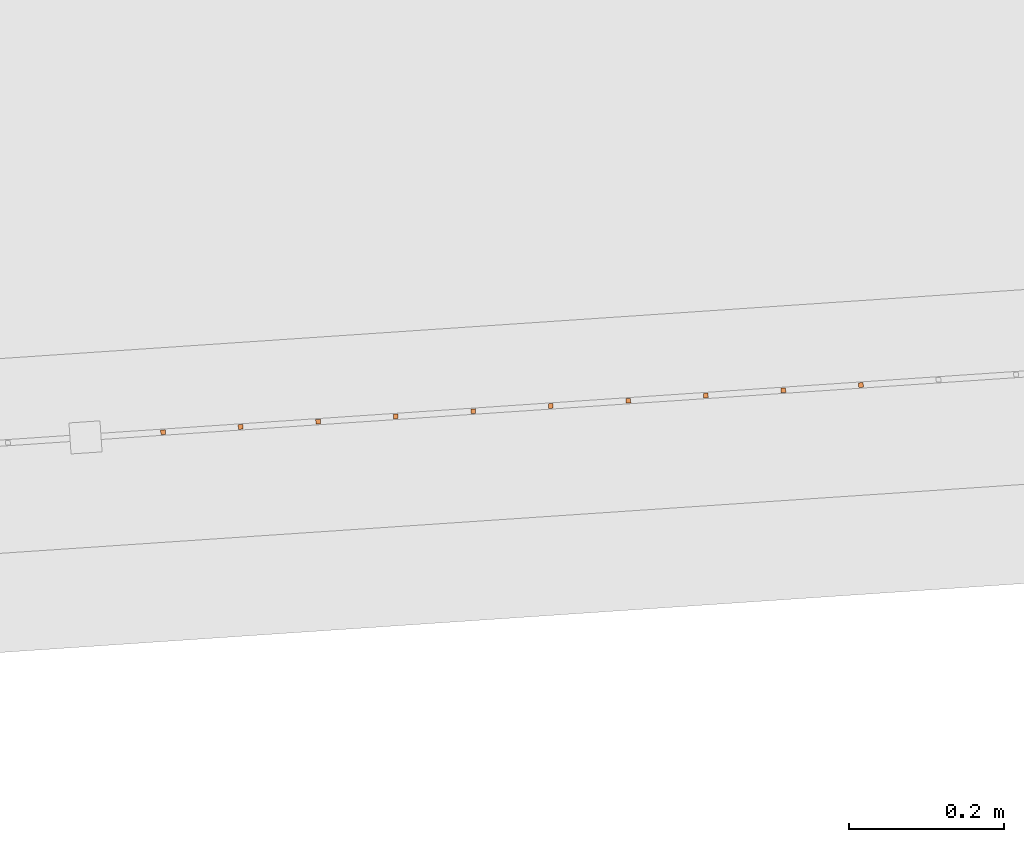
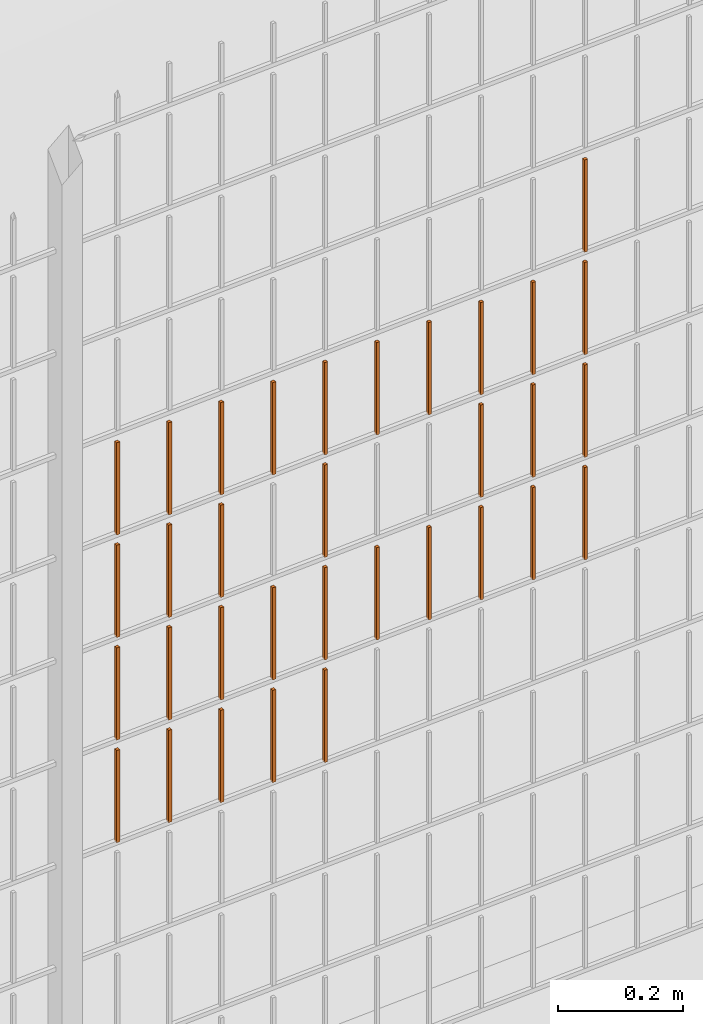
# One storey, part 278 of 1809: 33 proxies, 1 element without a shape of its own.
"""IFC2X3 building model written with IfcOpenShell, lengths in millimetres."""

from ifc_helpers import new_model, entity, si_unit, converted_unit, derived_unit, money_unit, direction, frame, origin_with_axes, place, context, subcontext, project, spatial, faceted_brep, source, transform, mapped, material, type_object, element, aggregate, save


model = new_model("IFC2X3")

# Units and contexts
model_context = context("Model", 3, precision=0.01, world=origin_with_axes(), true_north=direction((0.0, 1.0)))
body_context = subcontext(model_context, "Body", "Model", "MODEL_VIEW")
ifc_project = project(units=[si_unit("LENGTHUNIT", "METRE", prefix="MILLI"), si_unit("AREAUNIT", "SQUARE_METRE"), si_unit("VOLUMEUNIT", "CUBIC_METRE"), converted_unit("PLANEANGLEUNIT", "DEGREE", entity("IfcPlaneAngleMeasure", 0.0174532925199), si_unit("PLANEANGLEUNIT", "RADIAN"), dimensions=[0, 0, 0, 0, 0, 0, 0]), si_unit("SOLIDANGLEUNIT", "STERADIAN"), money_unit("EUR"), converted_unit("TIMEUNIT", "Year", entity("IfcTimeMeasure", 31556926.0), si_unit("TIMEUNIT", "SECOND"), dimensions=[0, 0, 1, 0, 0, 0, 0]), si_unit("MASSUNIT", "GRAM", prefix="KILO"), si_unit("THERMODYNAMICTEMPERATUREUNIT", "DEGREE_CELSIUS"), si_unit("LUMINOUSINTENSITYUNIT", "LUMEN"), si_unit("ENERGYUNIT", "JOULE", prefix="MEGA"), derived_unit("THERMALCONDUCTANCEUNIT", [(si_unit("POWERUNIT", "WATT"), 1), (si_unit("LENGTHUNIT", "METRE"), -1), (si_unit("THERMODYNAMICTEMPERATUREUNIT", "KELVIN"), -1)]), derived_unit("SPECIFICHEATCAPACITYUNIT", [(si_unit("ENERGYUNIT", "JOULE"), 1), (si_unit("MASSUNIT", "GRAM", prefix="KILO"), -1), (si_unit("THERMODYNAMICTEMPERATUREUNIT", "KELVIN"), -1)]), derived_unit("MASSDENSITYUNIT", [(si_unit("MASSUNIT", "GRAM", prefix="KILO"), 1), (si_unit("VOLUMEUNIT", "CUBIC_METRE"), -1)])], contexts=[model_context])

# Site, building, storey
site_placement = place(None, origin_with_axes())
site = spatial("IfcSite", under=ifc_project, at=site_placement, Name="Politse- ja Piirivalveameti ning Päästeameti ühishoone", CompositionType="ELEMENT")
building_placement = place(site_placement, origin_with_axes())
building = spatial("IfcBuilding", under=site, at=building_placement, Name="Politse- ja Piirivalveameti ning Päästeameti ühishoone", CompositionType="ELEMENT")
storey_placement = place(building_placement, origin_with_axes())
storey = spatial("IfcBuildingStorey", under=building, at=storey_placement, Name="Esimene korrus", CompositionType="ELEMENT", Elevation=0.0)

# Proxies
building_element_proxy_type_1 = type_object("IfcBuildingElementProxyType", Name="Railing Type", PredefinedType="NOTDEFINED")
proxy_1_placement = place(storey_placement, frame((89252.001212, -29183.4766571, 203.661247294), z_axis=(0.0, 0.0, 1.0), x_axis=(1.0, 0.0, 0.0)))
proxy_1 = element("IfcBuildingElementProxy", 1, at=proxy_1_placement, inside=storey, type_object=building_element_proxy_type_1, Name="PIIRDEAED")
ifc_material = material(Name="ET-03_Raud")
building_element_proxy_type_2 = type_object("IfcBuildingElementProxyType", Name="IfcBuildingElementProxy", PredefinedType="NOTDEFINED")
shared_shape_1 = source(origin_with_axes(), body_context, "Body", "Brep", [
    faceted_brep([(3.0, 3.0, -0.000752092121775), (-3.0, 3.0, -0.000752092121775), (-3.0, 3.0, 179.99926046), (3.0, 3.0, 179.99926046), (3.0, -3.0, 0.000752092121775), (-3.0, -3.0, 0.000752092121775), (-3.0, -3.0, 180.000764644), (3.0, -3.0, 180.000764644)], [[[0, 1, 2, 3]], [[0, 4, 5, 1]], [[1, 5, 6, 2]], [[3, 2, 6, 7]], [[4, 0, 3, 7]], [[5, 4, 7, 6]]]),
])
proxy_2_placement = place(proxy_1_placement, frame((-51908.4068673, -20803.9917502, 614.191431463), z_axis=(0.0, 0.0, 1.0), x_axis=(1.0, 0.0, 0.0)))
proxy_2 = element("IfcBuildingElementProxy", 2, at=proxy_2_placement, type_object=building_element_proxy_type_2, material=ifc_material, Name="BALUSTER - 001", context=body_context, shape_type="MappedRepresentation", body=[
    mapped(shared_shape_1, transform((0.0, 0.0, 0.0), x_axis=(-0.0673926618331, 0.997726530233, 0.0), y_axis=(-0.997726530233, -0.0673926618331, 0.0), z_axis=(0.0, 0.0, 1.0))),
])
shared_shape_2 = source(origin_with_axes(), body_context, "Body", "Brep", [
    faceted_brep([(3.0, 3.0, -0.000752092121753), (-3.0, 3.0, -0.000752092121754), (-3.0, 3.0, 179.99926046), (3.0, 3.0, 179.99926046), (3.0, -3.0, 0.000752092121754), (-3.0, -3.0, 0.000752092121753), (-3.0, -3.0, 180.000764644), (3.0, -3.0, 180.000764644)], [[[0, 1, 2, 3]], [[0, 4, 5, 1]], [[1, 5, 6, 2]], [[3, 2, 6, 7]], [[4, 0, 3, 7]], [[5, 4, 7, 6]]]),
])
proxy_3_placement = place(proxy_1_placement, frame((-52107.9521734, -20817.4702826, 1214.14129199), z_axis=(0.0, 0.0, 1.0), x_axis=(1.0, 0.0, 0.0)))
proxy_3 = element("IfcBuildingElementProxy", 3, at=proxy_3_placement, type_object=building_element_proxy_type_2, material=ifc_material, Name="BALUSTER - 001", context=body_context, shape_type="MappedRepresentation", body=[
    mapped(shared_shape_2, transform((0.0, 0.0, 0.0), x_axis=(-0.0673926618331, 0.997726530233, 0.0), y_axis=(-0.997726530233, -0.0673926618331, 0.0), z_axis=(0.0, 0.0, 1.0))),
])
shared_shape_3 = source(origin_with_axes(), body_context, "Body", "Brep", [
    faceted_brep([(3.0, 3.0, -0.000752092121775), (-3.0, 3.0, -0.000752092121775), (-3.0, 3.0, 179.99926046), (3.0, 3.0, 179.99926046), (3.0, -3.0, 0.000752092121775), (-3.0, -3.0, 0.000752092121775), (-3.0, -3.0, 180.000764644), (3.0, -3.0, 180.000764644)], [[[0, 1, 2, 3]], [[0, 4, 5, 1]], [[1, 5, 6, 2]], [[3, 2, 6, 7]], [[4, 0, 3, 7]], [[5, 4, 7, 6]]]),
])
proxy_4_placement = place(proxy_1_placement, frame((-51908.4068673, -20803.9917502, 814.191431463), z_axis=(0.0, 0.0, 1.0), x_axis=(1.0, 0.0, 0.0)))
proxy_4 = element("IfcBuildingElementProxy", 4, at=proxy_4_placement, type_object=building_element_proxy_type_2, material=ifc_material, Name="BALUSTER - 001", context=body_context, shape_type="MappedRepresentation", body=[
    mapped(shared_shape_3, transform((0.0, 0.0, 0.0), x_axis=(-0.0673926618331, 0.997726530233, 0.0), y_axis=(-0.997726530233, -0.0673926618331, 0.0), z_axis=(0.0, 0.0, 1.0))),
])
shared_shape_4 = source(origin_with_axes(), body_context, "Body", "Brep", [
    faceted_brep([(3.0, 3.0, -0.000752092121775), (-3.0, 3.0, -0.000752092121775), (-3.0, 3.0, 179.99926046), (3.0, 3.0, 179.99926046), (3.0, -3.0, 0.000752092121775), (-3.0, -3.0, 0.000752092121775), (-3.0, -3.0, 180.000764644), (3.0, -3.0, 180.000764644)], [[[0, 1, 2, 3]], [[0, 4, 5, 1]], [[1, 5, 6, 2]], [[3, 2, 6, 7]], [[4, 0, 3, 7]], [[5, 4, 7, 6]]]),
])
proxy_5_placement = place(proxy_1_placement, frame((-51808.6342143, -20797.252484, 1214.2165012), z_axis=(0.0, 0.0, 1.0), x_axis=(1.0, 0.0, 0.0)))
proxy_5 = element("IfcBuildingElementProxy", 5, at=proxy_5_placement, type_object=building_element_proxy_type_2, material=ifc_material, Name="BALUSTER - 001", context=body_context, shape_type="MappedRepresentation", body=[
    mapped(shared_shape_4, transform((0.0, 0.0, 0.0), x_axis=(-0.0673926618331, 0.997726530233, 0.0), y_axis=(-0.997726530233, -0.0673926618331, 0.0), z_axis=(0.0, 0.0, 1.0))),
])
shared_shape_5 = source(origin_with_axes(), body_context, "Body", "Brep", [
    faceted_brep([(3.0, 3.0, -0.000752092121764), (-3.0, 3.0, -0.000752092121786), (-3.0, 3.0, 179.99926046), (3.0, 3.0, 179.99926046), (3.0, -3.0, 0.000752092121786), (-3.0, -3.0, 0.000752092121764), (-3.0, -3.0, 180.000764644), (3.0, -3.0, 180.000764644)], [[[0, 1, 2, 3]], [[0, 4, 5, 1]], [[1, 5, 6, 2]], [[3, 2, 6, 7]], [[4, 0, 3, 7]], [[5, 4, 7, 6]]]),
])
proxy_6_placement = place(proxy_1_placement, frame((-51708.8615613, -20790.5132179, 1214.24157094), z_axis=(0.0, 0.0, 1.0), x_axis=(1.0, 0.0, 0.0)))
proxy_6 = element("IfcBuildingElementProxy", 6, at=proxy_6_placement, type_object=building_element_proxy_type_2, material=ifc_material, Name="BALUSTER - 001", context=body_context, shape_type="MappedRepresentation", body=[
    mapped(shared_shape_5, transform((0.0, 0.0, 0.0), x_axis=(-0.0673926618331, 0.997726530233, 0.0), y_axis=(-0.997726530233, -0.0673926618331, 0.0), z_axis=(0.0, 0.0, 1.0))),
])
shared_shape_6 = source(origin_with_axes(), body_context, "Body", "Brep", [
    faceted_brep([(3.0, 3.0, -0.000752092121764), (-3.0, 3.0, -0.000752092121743), (-3.0, 3.0, 179.99926046), (3.0, 3.0, 179.99926046), (3.0, -3.0, 0.000752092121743), (-3.0, -3.0, 0.000752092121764), (-3.0, -3.0, 180.000764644), (3.0, -3.0, 180.000764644)], [[[0, 1, 2, 3]], [[0, 4, 5, 1]], [[1, 5, 6, 2]], [[3, 2, 6, 7]], [[4, 0, 3, 7]], [[5, 4, 7, 6]]]),
])
proxy_7_placement = place(proxy_1_placement, frame((-52008.1795203, -20810.7310164, 614.166361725), z_axis=(0.0, 0.0, 1.0), x_axis=(1.0, 0.0, 0.0)))
proxy_7 = element("IfcBuildingElementProxy", 7, at=proxy_7_placement, type_object=building_element_proxy_type_2, material=ifc_material, Name="BALUSTER - 001", context=body_context, shape_type="MappedRepresentation", body=[
    mapped(shared_shape_6, transform((0.0, 0.0, 0.0), x_axis=(-0.0673926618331, 0.997726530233, 0.0), y_axis=(-0.997726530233, -0.0673926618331, 0.0), z_axis=(0.0, 0.0, 1.0))),
])
proxy_8_placement = place(proxy_1_placement, frame((-52008.1795203, -20810.7310164, 814.166361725), z_axis=(0.0, 0.0, 1.0), x_axis=(1.0, 0.0, 0.0)))
proxy_8 = element("IfcBuildingElementProxy", 8, at=proxy_8_placement, type_object=building_element_proxy_type_2, material=ifc_material, Name="BALUSTER - 001", context=body_context, shape_type="MappedRepresentation", body=[
    mapped(shared_shape_6, transform((0.0, 0.0, 0.0), x_axis=(-0.0673926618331, 0.997726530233, 0.0), y_axis=(-0.997726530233, -0.0673926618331, 0.0), z_axis=(0.0, 0.0, 1.0))),
])
shared_shape_7 = source(origin_with_axes(), body_context, "Body", "Brep", [
    faceted_brep([(3.0, 3.0, -0.000752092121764), (-3.0, 3.0, -0.000752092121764), (-3.0, 3.0, 179.99926046), (3.0, 3.0, 179.99926046), (3.0, -3.0, 0.000752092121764), (-3.0, -3.0, 0.000752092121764), (-3.0, -3.0, 180.000764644), (3.0, -3.0, 180.000764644)], [[[0, 1, 2, 3]], [[0, 4, 5, 1]], [[1, 5, 6, 2]], [[3, 2, 6, 7]], [[4, 0, 3, 7]], [[5, 4, 7, 6]]]),
])
proxy_9_placement = place(proxy_1_placement, frame((-51609.0889082, -20783.7739517, 1214.26664067), z_axis=(0.0, 0.0, 1.0), x_axis=(1.0, 0.0, 0.0)))
proxy_9 = element("IfcBuildingElementProxy", 9, at=proxy_9_placement, type_object=building_element_proxy_type_2, material=ifc_material, Name="BALUSTER - 001", context=body_context, shape_type="MappedRepresentation", body=[
    mapped(shared_shape_7, transform((0.0, 0.0, 0.0), x_axis=(-0.0673926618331, 0.997726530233, 0.0), y_axis=(-0.997726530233, -0.0673926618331, 0.0), z_axis=(0.0, 0.0, 1.0))),
])
proxy_10_placement = place(proxy_1_placement, frame((-51908.4068673, -20803.9917502, 1214.19143146), z_axis=(0.0, 0.0, 1.0), x_axis=(1.0, 0.0, 0.0)))
proxy_10 = element("IfcBuildingElementProxy", 10, at=proxy_10_placement, type_object=building_element_proxy_type_2, material=ifc_material, Name="BALUSTER - 001", context=body_context, shape_type="MappedRepresentation", body=[
    mapped(shared_shape_7, transform((0.0, 0.0, 0.0), x_axis=(-0.0673926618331, 0.997726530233, 0.0), y_axis=(-0.997726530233, -0.0673926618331, 0.0), z_axis=(0.0, 0.0, 1.0))),
])
shared_shape_8 = source(origin_with_axes(), body_context, "Body", "Brep", [
    faceted_brep([(3.0, 3.0, -0.000752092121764), (-3.0, 3.0, -0.000752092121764), (-3.0, 3.0, 179.99926046), (3.0, 3.0, 179.99926046), (3.0, -3.0, 0.000752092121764), (-3.0, -3.0, 0.000752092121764), (-3.0, -3.0, 180.000764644), (3.0, -3.0, 180.000764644)], [[[0, 1, 2, 3]], [[0, 4, 5, 1]], [[1, 5, 6, 2]], [[3, 2, 6, 7]], [[4, 0, 3, 7]], [[5, 4, 7, 6]]]),
])
proxy_11_placement = place(proxy_1_placement, frame((-51409.5436022, -20770.2954193, 1214.31678015), z_axis=(0.0, 0.0, 1.0), x_axis=(1.0, 0.0, 0.0)))
proxy_11 = element("IfcBuildingElementProxy", 11, at=proxy_11_placement, type_object=building_element_proxy_type_2, material=ifc_material, Name="BALUSTER - 001", context=body_context, shape_type="MappedRepresentation", body=[
    mapped(shared_shape_8, transform((0.0, 0.0, 0.0), x_axis=(-0.0673926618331, 0.997726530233, 0.0), y_axis=(-0.997726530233, -0.0673926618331, 0.0), z_axis=(0.0, 0.0, 1.0))),
])
shared_shape_9 = source(origin_with_axes(), body_context, "Body", "Brep", [
    faceted_brep([(3.0, 3.0, -0.000752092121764), (-3.0, 3.0, -0.000752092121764), (-3.0, 3.0, 179.99926046), (3.0, 3.0, 179.99926046), (3.0, -3.0, 0.000752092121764), (-3.0, -3.0, 0.000752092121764), (-3.0, -3.0, 180.000764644), (3.0, -3.0, 180.000764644)], [[[0, 1, 2, 3]], [[0, 4, 5, 1]], [[1, 5, 6, 2]], [[3, 2, 6, 7]], [[4, 0, 3, 7]], [[5, 4, 7, 6]]]),
])
proxy_12_placement = place(proxy_1_placement, frame((-51209.9982961, -20756.8168869, 1414.36691962), z_axis=(0.0, 0.0, 1.0), x_axis=(1.0, 0.0, 0.0)))
proxy_12 = element("IfcBuildingElementProxy", 12, at=proxy_12_placement, type_object=building_element_proxy_type_2, material=ifc_material, Name="BALUSTER - 001", context=body_context, shape_type="MappedRepresentation", body=[
    mapped(shared_shape_9, transform((0.0, 0.0, 0.0), x_axis=(-0.0673926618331, 0.997726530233, 0.0), y_axis=(-0.997726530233, -0.0673926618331, 0.0), z_axis=(0.0, 0.0, 1.0))),
])
shared_shape_10 = source(origin_with_axes(), body_context, "Body", "Brep", [
    faceted_brep([(3.0, 3.0, -0.000752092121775), (-3.0, 3.0, -0.000752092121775), (-3.0, 3.0, 179.99926046), (3.0, 3.0, 179.99926046), (3.0, -3.0, 0.000752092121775), (-3.0, -3.0, 0.000752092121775), (-3.0, -3.0, 180.000764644), (3.0, -3.0, 180.000764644)], [[[0, 1, 2, 3]], [[0, 4, 5, 1]], [[1, 5, 6, 2]], [[3, 2, 6, 7]], [[4, 0, 3, 7]], [[5, 4, 7, 6]]]),
])
proxy_13_placement = place(proxy_1_placement, frame((-51708.8615613, -20790.5132179, 614.241570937), z_axis=(0.0, 0.0, 1.0), x_axis=(1.0, 0.0, 0.0)))
proxy_13 = element("IfcBuildingElementProxy", 13, at=proxy_13_placement, type_object=building_element_proxy_type_2, material=ifc_material, Name="BALUSTER - 001", context=body_context, shape_type="MappedRepresentation", body=[
    mapped(shared_shape_10, transform((0.0, 0.0, 0.0), x_axis=(-0.0673926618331, 0.997726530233, 0.0), y_axis=(-0.997726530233, -0.0673926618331, 0.0), z_axis=(0.0, 0.0, 1.0))),
])
shared_shape_11 = source(origin_with_axes(), body_context, "Body", "Brep", [
    faceted_brep([(3.0, 3.0, -0.000752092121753), (-3.0, 3.0, -0.000752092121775), (-3.0, 3.0, 179.99926046), (3.0, 3.0, 179.99926046), (3.0, -3.0, 0.000752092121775), (-3.0, -3.0, 0.000752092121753), (-3.0, -3.0, 180.000764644), (3.0, -3.0, 180.000764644)], [[[0, 1, 2, 3]], [[0, 4, 5, 1]], [[1, 5, 6, 2]], [[3, 2, 6, 7]], [[4, 0, 3, 7]], [[5, 4, 7, 6]]]),
])
proxy_14_placement = place(proxy_1_placement, frame((-51808.6342143, -20797.252484, 614.2165012), z_axis=(0.0, 0.0, 1.0), x_axis=(1.0, 0.0, 0.0)))
proxy_14 = element("IfcBuildingElementProxy", 14, at=proxy_14_placement, type_object=building_element_proxy_type_2, material=ifc_material, Name="BALUSTER - 001", context=body_context, shape_type="MappedRepresentation", body=[
    mapped(shared_shape_11, transform((0.0, 0.0, 0.0), x_axis=(-0.0673926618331, 0.997726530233, 0.0), y_axis=(-0.997726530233, -0.0673926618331, 0.0), z_axis=(0.0, 0.0, 1.0))),
])
shared_shape_12 = source(origin_with_axes(), body_context, "Body", "Brep", [
    faceted_brep([(3.0, 3.0, -0.000752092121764), (-3.0, 3.0, -0.000752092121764), (-3.0, 3.0, 179.99926046), (3.0, 3.0, 179.99926046), (3.0, -3.0, 0.000752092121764), (-3.0, -3.0, 0.000752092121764), (-3.0, -3.0, 180.000764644), (3.0, -3.0, 180.000764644)], [[[0, 1, 2, 3]], [[0, 4, 5, 1]], [[1, 5, 6, 2]], [[3, 2, 6, 7]], [[4, 0, 3, 7]], [[5, 4, 7, 6]]]),
])
proxy_15_placement = place(proxy_1_placement, frame((-51409.5436022, -20770.2954193, 814.316780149), z_axis=(0.0, 0.0, 1.0), x_axis=(1.0, 0.0, 0.0)))
proxy_15 = element("IfcBuildingElementProxy", 15, at=proxy_15_placement, type_object=building_element_proxy_type_2, material=ifc_material, Name="BALUSTER - 001", context=body_context, shape_type="MappedRepresentation", body=[
    mapped(shared_shape_12, transform((0.0, 0.0, 0.0), x_axis=(-0.0673926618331, 0.997726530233, 0.0), y_axis=(-0.997726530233, -0.0673926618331, 0.0), z_axis=(0.0, 0.0, 1.0))),
])
shared_shape_13 = source(origin_with_axes(), body_context, "Body", "Brep", [
    faceted_brep([(3.0, 3.0, -0.000752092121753), (-3.0, 3.0, -0.000752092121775), (-3.0, 3.0, 179.99926046), (3.0, 3.0, 179.99926046), (3.0, -3.0, 0.000752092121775), (-3.0, -3.0, 0.000752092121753), (-3.0, -3.0, 180.000764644), (3.0, -3.0, 180.000764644)], [[[0, 1, 2, 3]], [[0, 4, 5, 1]], [[1, 5, 6, 2]], [[3, 2, 6, 7]], [[4, 0, 3, 7]], [[5, 4, 7, 6]]]),
])
proxy_16_placement = place(proxy_1_placement, frame((-52008.1795203, -20810.7310164, 1214.16636173), z_axis=(0.0, 0.0, 1.0), x_axis=(1.0, 0.0, 0.0)))
proxy_16 = element("IfcBuildingElementProxy", 16, at=proxy_16_placement, type_object=building_element_proxy_type_2, material=ifc_material, Name="BALUSTER - 001", context=body_context, shape_type="MappedRepresentation", body=[
    mapped(shared_shape_13, transform((0.0, 0.0, 0.0), x_axis=(-0.0673926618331, 0.997726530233, 0.0), y_axis=(-0.997726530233, -0.0673926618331, 0.0), z_axis=(0.0, 0.0, 1.0))),
])
shared_shape_14 = source(origin_with_axes(), body_context, "Body", "Brep", [
    faceted_brep([(3.0, 3.0, -0.000752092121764), (-3.0, 3.0, -0.000752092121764), (-3.0, 3.0, 179.99926046), (3.0, 3.0, 179.99926046), (3.0, -3.0, 0.000752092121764), (-3.0, -3.0, 0.000752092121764), (-3.0, -3.0, 180.000764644), (3.0, -3.0, 180.000764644)], [[[0, 1, 2, 3]], [[0, 4, 5, 1]], [[1, 5, 6, 2]], [[3, 2, 6, 7]], [[4, 0, 3, 7]], [[5, 4, 7, 6]]]),
])
proxy_17_placement = place(proxy_1_placement, frame((-52107.9521734, -20817.4702826, 614.141291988), z_axis=(0.0, 0.0, 1.0), x_axis=(1.0, 0.0, 0.0)))
proxy_17 = element("IfcBuildingElementProxy", 17, at=proxy_17_placement, type_object=building_element_proxy_type_2, material=ifc_material, Name="BALUSTER - 001", context=body_context, shape_type="MappedRepresentation", body=[
    mapped(shared_shape_14, transform((0.0, 0.0, 0.0), x_axis=(-0.0673926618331, 0.997726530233, 0.0), y_axis=(-0.997726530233, -0.0673926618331, 0.0), z_axis=(0.0, 0.0, 1.0))),
])
proxy_18_placement = place(proxy_1_placement, frame((-51209.9982961, -20756.8168869, 1214.36691962), z_axis=(0.0, 0.0, 1.0), x_axis=(1.0, 0.0, 0.0)))
proxy_18 = element("IfcBuildingElementProxy", 18, at=proxy_18_placement, type_object=building_element_proxy_type_2, material=ifc_material, Name="BALUSTER - 001", context=body_context, shape_type="MappedRepresentation", body=[
    mapped(shared_shape_14, transform((0.0, 0.0, 0.0), x_axis=(-0.0673926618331, 0.997726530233, 0.0), y_axis=(-0.997726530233, -0.0673926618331, 0.0), z_axis=(0.0, 0.0, 1.0))),
])
shared_shape_15 = source(origin_with_axes(), body_context, "Body", "Brep", [
    faceted_brep([(3.0, 3.0, -0.000752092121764), (-3.0, 3.0, -0.000752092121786), (-3.0, 3.0, 179.99926046), (3.0, 3.0, 179.99926046), (3.0, -3.0, 0.000752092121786), (-3.0, -3.0, 0.000752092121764), (-3.0, -3.0, 180.000764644), (3.0, -3.0, 180.000764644)], [[[0, 1, 2, 3]], [[0, 4, 5, 1]], [[1, 5, 6, 2]], [[3, 2, 6, 7]], [[4, 0, 3, 7]], [[5, 4, 7, 6]]]),
])
proxy_19_placement = place(proxy_1_placement, frame((-51609.0889082, -20783.7739517, 814.266640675), z_axis=(0.0, 0.0, 1.0), x_axis=(1.0, 0.0, 0.0)))
proxy_19 = element("IfcBuildingElementProxy", 19, at=proxy_19_placement, type_object=building_element_proxy_type_2, material=ifc_material, Name="BALUSTER - 001", context=body_context, shape_type="MappedRepresentation", body=[
    mapped(shared_shape_15, transform((0.0, 0.0, 0.0), x_axis=(-0.0673926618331, 0.997726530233, 0.0), y_axis=(-0.997726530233, -0.0673926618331, 0.0), z_axis=(0.0, 0.0, 1.0))),
])
shared_shape_16 = source(origin_with_axes(), body_context, "Body", "Brep", [
    faceted_brep([(3.0, 3.0, -0.000752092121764), (-3.0, 3.0, -0.000752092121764), (-3.0, 3.0, 179.99926046), (3.0, 3.0, 179.99926046), (3.0, -3.0, 0.000752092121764), (-3.0, -3.0, 0.000752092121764), (-3.0, -3.0, 180.000764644), (3.0, -3.0, 180.000764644)], [[[0, 1, 2, 3]], [[0, 4, 5, 1]], [[1, 5, 6, 2]], [[3, 2, 6, 7]], [[4, 0, 3, 7]], [[5, 4, 7, 6]]]),
])
proxy_20_placement = place(proxy_1_placement, frame((-52107.9521734, -20817.4702826, 814.141291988), z_axis=(0.0, 0.0, 1.0), x_axis=(1.0, 0.0, 0.0)))
proxy_20 = element("IfcBuildingElementProxy", 20, at=proxy_20_placement, type_object=building_element_proxy_type_2, material=ifc_material, Name="BALUSTER - 001", context=body_context, shape_type="MappedRepresentation", body=[
    mapped(shared_shape_16, transform((0.0, 0.0, 0.0), x_axis=(-0.0673926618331, 0.997726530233, 0.0), y_axis=(-0.997726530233, -0.0673926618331, 0.0), z_axis=(0.0, 0.0, 1.0))),
])
shared_shape_17 = source(origin_with_axes(), body_context, "Body", "Brep", [
    faceted_brep([(3.0, 3.0, -0.000752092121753), (-3.0, 3.0, -0.000752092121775), (-3.0, 3.0, 179.99926046), (3.0, 3.0, 179.99926046), (3.0, -3.0, 0.000752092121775), (-3.0, -3.0, 0.000752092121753), (-3.0, -3.0, 180.000764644), (3.0, -3.0, 180.000764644)], [[[0, 1, 2, 3]], [[0, 4, 5, 1]], [[1, 5, 6, 2]], [[3, 2, 6, 7]], [[4, 0, 3, 7]], [[5, 4, 7, 6]]]),
])
proxy_21_placement = place(proxy_1_placement, frame((-51808.6342143, -20797.252484, 814.2165012), z_axis=(0.0, 0.0, 1.0), x_axis=(1.0, 0.0, 0.0)))
proxy_21 = element("IfcBuildingElementProxy", 21, at=proxy_21_placement, type_object=building_element_proxy_type_2, material=ifc_material, Name="BALUSTER - 001", context=body_context, shape_type="MappedRepresentation", body=[
    mapped(shared_shape_17, transform((0.0, 0.0, 0.0), x_axis=(-0.0673926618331, 0.997726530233, 0.0), y_axis=(-0.997726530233, -0.0673926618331, 0.0), z_axis=(0.0, 0.0, 1.0))),
])
shared_shape_18 = source(origin_with_axes(), body_context, "Body", "Brep", [
    faceted_brep([(3.0, 3.0, -0.000752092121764), (-3.0, 3.0, -0.000752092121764), (-3.0, 3.0, 179.99926046), (3.0, 3.0, 179.99926046), (3.0, -3.0, 0.000752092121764), (-3.0, -3.0, 0.000752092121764), (-3.0, -3.0, 180.000764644), (3.0, -3.0, 180.000764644)], [[[0, 1, 2, 3]], [[0, 4, 5, 1]], [[1, 5, 6, 2]], [[3, 2, 6, 7]], [[4, 0, 3, 7]], [[5, 4, 7, 6]]]),
])
proxy_22_placement = place(proxy_1_placement, frame((-51309.7709492, -20763.5561531, 814.341849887), z_axis=(0.0, 0.0, 1.0), x_axis=(1.0, 0.0, 0.0)))
proxy_22 = element("IfcBuildingElementProxy", 22, at=proxy_22_placement, type_object=building_element_proxy_type_2, material=ifc_material, Name="BALUSTER - 001", context=body_context, shape_type="MappedRepresentation", body=[
    mapped(shared_shape_18, transform((0.0, 0.0, 0.0), x_axis=(-0.0673926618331, 0.997726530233, 0.0), y_axis=(-0.997726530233, -0.0673926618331, 0.0), z_axis=(0.0, 0.0, 1.0))),
])
proxy_23_placement = place(proxy_1_placement, frame((-51309.7709492, -20763.5561531, 1214.34184989), z_axis=(0.0, 0.0, 1.0), x_axis=(1.0, 0.0, 0.0)))
proxy_23 = element("IfcBuildingElementProxy", 23, at=proxy_23_placement, type_object=building_element_proxy_type_2, material=ifc_material, Name="BALUSTER - 001", context=body_context, shape_type="MappedRepresentation", body=[
    mapped(shared_shape_18, transform((0.0, 0.0, 0.0), x_axis=(-0.0673926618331, 0.997726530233, 0.0), y_axis=(-0.997726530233, -0.0673926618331, 0.0), z_axis=(0.0, 0.0, 1.0))),
])
shared_shape_19 = source(origin_with_axes(), body_context, "Body", "Brep", [
    faceted_brep([(3.0, 3.0, -0.000752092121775), (-3.0, 3.0, -0.000752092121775), (-3.0, 3.0, 179.99926046), (3.0, 3.0, 179.99926046), (3.0, -3.0, 0.000752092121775), (-3.0, -3.0, 0.000752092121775), (-3.0, -3.0, 180.000764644), (3.0, -3.0, 180.000764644)], [[[0, 1, 2, 3]], [[0, 4, 5, 1]], [[1, 5, 6, 2]], [[3, 2, 6, 7]], [[4, 0, 3, 7]], [[5, 4, 7, 6]]]),
])
proxy_24_placement = place(proxy_1_placement, frame((-51708.8615613, -20790.5132179, 814.241570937), z_axis=(0.0, 0.0, 1.0), x_axis=(1.0, 0.0, 0.0)))
proxy_24 = element("IfcBuildingElementProxy", 24, at=proxy_24_placement, type_object=building_element_proxy_type_2, material=ifc_material, Name="BALUSTER - 001", context=body_context, shape_type="MappedRepresentation", body=[
    mapped(shared_shape_19, transform((0.0, 0.0, 0.0), x_axis=(-0.0673926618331, 0.997726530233, 0.0), y_axis=(-0.997726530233, -0.0673926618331, 0.0), z_axis=(0.0, 0.0, 1.0))),
])
shared_shape_20 = source(origin_with_axes(), body_context, "Body", "Brep", [
    faceted_brep([(3.0, 3.0, -0.000752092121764), (-3.0, 3.0, -0.000752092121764), (-3.0, 3.0, 179.99926046), (3.0, 3.0, 179.99926046), (3.0, -3.0, 0.000752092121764), (-3.0, -3.0, 0.000752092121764), (-3.0, -3.0, 180.000764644), (3.0, -3.0, 180.000764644)], [[[0, 1, 2, 3]], [[0, 4, 5, 1]], [[1, 5, 6, 2]], [[3, 2, 6, 7]], [[4, 0, 3, 7]], [[5, 4, 7, 6]]]),
])
proxy_25_placement = place(proxy_1_placement, frame((-51209.9982961, -20756.8168869, 814.366919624), z_axis=(0.0, 0.0, 1.0), x_axis=(1.0, 0.0, 0.0)))
proxy_25 = element("IfcBuildingElementProxy", 25, at=proxy_25_placement, type_object=building_element_proxy_type_2, material=ifc_material, Name="BALUSTER - 001", context=body_context, shape_type="MappedRepresentation", body=[
    mapped(shared_shape_20, transform((0.0, 0.0, 0.0), x_axis=(-0.0673926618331, 0.997726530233, 0.0), y_axis=(-0.997726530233, -0.0673926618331, 0.0), z_axis=(0.0, 0.0, 1.0))),
])
shared_shape_21 = source(origin_with_axes(), body_context, "Body", "Brep", [
    faceted_brep([(3.0, 3.0, -0.000752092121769), (-3.0, 3.0, -0.00075209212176), (-3.00000000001, 3.0, 179.99926046), (2.99999999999, 3.0, 179.99926046), (3.0, -3.0, 0.00075209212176), (-3.0, -3.0, 0.000752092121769), (-3.00000000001, -3.0, 180.000764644), (2.99999999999, -3.0, 180.000764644)], [[[0, 1, 2, 3]], [[0, 4, 5, 1]], [[1, 5, 6, 2]], [[3, 2, 6, 7]], [[4, 0, 3, 7]], [[5, 4, 7, 6]]]),
])
proxy_26_placement = place(proxy_1_placement, frame((-51309.7709492, -20763.5561531, 1014.34184989), z_axis=(0.0, 0.0, 1.0), x_axis=(1.0, 0.0, 0.0)))
proxy_26 = element("IfcBuildingElementProxy", 26, at=proxy_26_placement, type_object=building_element_proxy_type_2, material=ifc_material, Name="BALUSTER - 001", context=body_context, shape_type="MappedRepresentation", body=[
    mapped(shared_shape_21, transform((0.0, 0.0, 0.0), x_axis=(-0.0673926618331, 0.997726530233, 0.0), y_axis=(-0.997726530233, -0.0673926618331, 0.0), z_axis=(0.0, 0.0, 1.0))),
])
shared_shape_22 = source(origin_with_axes(), body_context, "Body", "Brep", [
    faceted_brep([(3.0, 3.0, -0.000752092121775), (-3.0, 3.0, -0.000752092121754), (-3.0, 3.0, 179.99926046), (3.0, 3.0, 179.99926046), (3.0, -3.0, 0.000752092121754), (-3.0, -3.0, 0.000752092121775), (-3.0, -3.0, 180.000764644), (3.0, -3.0, 180.000764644)], [[[0, 1, 2, 3]], [[0, 4, 5, 1]], [[1, 5, 6, 2]], [[3, 2, 6, 7]], [[4, 0, 3, 7]], [[5, 4, 7, 6]]]),
])
proxy_27_placement = place(proxy_1_placement, frame((-51509.3162552, -20777.0346855, 814.291710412), z_axis=(0.0, 0.0, 1.0), x_axis=(1.0, 0.0, 0.0)))
proxy_27 = element("IfcBuildingElementProxy", 27, at=proxy_27_placement, type_object=building_element_proxy_type_2, material=ifc_material, Name="BALUSTER - 001", context=body_context, shape_type="MappedRepresentation", body=[
    mapped(shared_shape_22, transform((0.0, 0.0, 0.0), x_axis=(-0.0673926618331, 0.997726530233, 0.0), y_axis=(-0.997726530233, -0.0673926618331, 0.0), z_axis=(0.0, 0.0, 1.0))),
])
proxy_28_placement = place(proxy_1_placement, frame((-51509.3162552, -20777.0346855, 1214.29171041), z_axis=(0.0, 0.0, 1.0), x_axis=(1.0, 0.0, 0.0)))
proxy_28 = element("IfcBuildingElementProxy", 28, at=proxy_28_placement, type_object=building_element_proxy_type_2, material=ifc_material, Name="BALUSTER - 001", context=body_context, shape_type="MappedRepresentation", body=[
    mapped(shared_shape_22, transform((0.0, 0.0, 0.0), x_axis=(-0.0673926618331, 0.997726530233, 0.0), y_axis=(-0.997726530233, -0.0673926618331, 0.0), z_axis=(0.0, 0.0, 1.0))),
])
shared_shape_23 = source(origin_with_axes(), body_context, "Body", "Brep", [
    faceted_brep([(3.0, 3.0, -0.000752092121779), (-3.0, 3.0, -0.000752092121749), (-3.00000000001, 3.0, 179.99926046), (2.99999999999, 3.0, 179.99926046), (3.0, -3.0, 0.000752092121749), (-3.0, -3.0, 0.000752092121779), (-3.00000000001, -3.0, 180.000764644), (2.99999999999, -3.0, 180.000764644)], [[[0, 1, 2, 3]], [[0, 4, 5, 1]], [[1, 5, 6, 2]], [[3, 2, 6, 7]], [[4, 0, 3, 7]], [[5, 4, 7, 6]]]),
])
proxy_29_placement = place(proxy_1_placement, frame((-51409.5436022, -20770.2954193, 1014.31678015), z_axis=(0.0, 0.0, 1.0), x_axis=(1.0, 0.0, 0.0)))
proxy_29 = element("IfcBuildingElementProxy", 29, at=proxy_29_placement, type_object=building_element_proxy_type_2, material=ifc_material, Name="BALUSTER - 001", context=body_context, shape_type="MappedRepresentation", body=[
    mapped(shared_shape_23, transform((0.0, 0.0, 0.0), x_axis=(-0.0673926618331, 0.997726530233, 0.0), y_axis=(-0.997726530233, -0.0673926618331, 0.0), z_axis=(0.0, 0.0, 1.0))),
])
shared_shape_24 = source(origin_with_axes(), body_context, "Body", "Brep", [
    faceted_brep([(3.0, 3.0, -0.000752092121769), (-3.0, 3.0, -0.00075209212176), (-3.00000000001, 3.0, 179.99926046), (2.99999999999, 3.0, 179.99926046), (3.0, -3.0, 0.00075209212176), (-3.0, -3.0, 0.000752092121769), (-3.00000000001, -3.0, 180.000764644), (2.99999999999, -3.0, 180.000764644)], [[[0, 1, 2, 3]], [[0, 4, 5, 1]], [[1, 5, 6, 2]], [[3, 2, 6, 7]], [[4, 0, 3, 7]], [[5, 4, 7, 6]]]),
])
proxy_30_placement = place(proxy_1_placement, frame((-51708.8615613, -20790.5132179, 1014.24157094), z_axis=(0.0, 0.0, 1.0), x_axis=(1.0, 0.0, 0.0)))
proxy_30 = element("IfcBuildingElementProxy", 30, at=proxy_30_placement, type_object=building_element_proxy_type_2, material=ifc_material, Name="BALUSTER - 001", context=body_context, shape_type="MappedRepresentation", body=[
    mapped(shared_shape_24, transform((0.0, 0.0, 0.0), x_axis=(-0.0673926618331, 0.997726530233, 0.0), y_axis=(-0.997726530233, -0.0673926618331, 0.0), z_axis=(0.0, 0.0, 1.0))),
])
shared_shape_25 = source(origin_with_axes(), body_context, "Body", "Brep", [
    faceted_brep([(3.0, 3.0, -0.000752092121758), (-3.0, 3.0, -0.00075209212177), (-3.00000000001, 3.0, 179.99926046), (2.99999999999, 3.0, 179.99926046), (3.0, -3.0, 0.00075209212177), (-3.0, -3.0, 0.000752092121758), (-3.00000000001, -3.0, 180.000764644), (2.99999999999, -3.0, 180.000764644)], [[[0, 1, 2, 3]], [[0, 4, 5, 1]], [[1, 5, 6, 2]], [[3, 2, 6, 7]], [[4, 0, 3, 7]], [[5, 4, 7, 6]]]),
])
proxy_31_placement = place(proxy_1_placement, frame((-52107.9521734, -20817.4702826, 1014.14129199), z_axis=(0.0, 0.0, 1.0), x_axis=(1.0, 0.0, 0.0)))
proxy_31 = element("IfcBuildingElementProxy", 31, at=proxy_31_placement, type_object=building_element_proxy_type_2, material=ifc_material, Name="BALUSTER - 001", context=body_context, shape_type="MappedRepresentation", body=[
    mapped(shared_shape_25, transform((0.0, 0.0, 0.0), x_axis=(-0.0673926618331, 0.997726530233, 0.0), y_axis=(-0.997726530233, -0.0673926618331, 0.0), z_axis=(0.0, 0.0, 1.0))),
])
shared_shape_26 = source(origin_with_axes(), body_context, "Body", "Brep", [
    faceted_brep([(3.0, 3.0, -0.000752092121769), (-3.0, 3.0, -0.00075209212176), (-3.00000000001, 3.0, 179.99926046), (2.99999999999, 3.0, 179.99926046), (3.0, -3.0, 0.00075209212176), (-3.0, -3.0, 0.000752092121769), (-3.00000000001, -3.0, 180.000764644), (2.99999999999, -3.0, 180.000764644)], [[[0, 1, 2, 3]], [[0, 4, 5, 1]], [[1, 5, 6, 2]], [[3, 2, 6, 7]], [[4, 0, 3, 7]], [[5, 4, 7, 6]]]),
])
proxy_32_placement = place(proxy_1_placement, frame((-51908.4068673, -20803.9917502, 1014.19143146), z_axis=(0.0, 0.0, 1.0), x_axis=(1.0, 0.0, 0.0)))
proxy_32 = element("IfcBuildingElementProxy", 32, at=proxy_32_placement, type_object=building_element_proxy_type_2, material=ifc_material, Name="BALUSTER - 001", context=body_context, shape_type="MappedRepresentation", body=[
    mapped(shared_shape_26, transform((0.0, 0.0, 0.0), x_axis=(-0.0673926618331, 0.997726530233, 0.0), y_axis=(-0.997726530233, -0.0673926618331, 0.0), z_axis=(0.0, 0.0, 1.0))),
])
shared_shape_27 = source(origin_with_axes(), body_context, "Body", "Brep", [
    faceted_brep([(3.0, 3.0, -0.000752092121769), (-3.0, 3.0, -0.000752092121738), (-3.00000000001, 3.0, 179.99926046), (2.99999999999, 3.0, 179.99926046), (3.0, -3.0, 0.000752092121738), (-3.0, -3.0, 0.000752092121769), (-3.00000000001, -3.0, 180.000764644), (2.99999999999, -3.0, 180.000764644)], [[[0, 1, 2, 3]], [[0, 4, 5, 1]], [[1, 5, 6, 2]], [[3, 2, 6, 7]], [[4, 0, 3, 7]], [[5, 4, 7, 6]]]),
])
proxy_33_placement = place(proxy_1_placement, frame((-52008.1795203, -20810.7310164, 1014.16636173), z_axis=(0.0, 0.0, 1.0), x_axis=(1.0, 0.0, 0.0)))
proxy_33 = element("IfcBuildingElementProxy", 33, at=proxy_33_placement, type_object=building_element_proxy_type_2, material=ifc_material, Name="BALUSTER - 001", context=body_context, shape_type="MappedRepresentation", body=[
    mapped(shared_shape_27, transform((0.0, 0.0, 0.0), x_axis=(-0.0673926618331, 0.997726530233, 0.0), y_axis=(-0.997726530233, -0.0673926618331, 0.0), z_axis=(0.0, 0.0, 1.0))),
])
shared_shape_28 = source(origin_with_axes(), body_context, "Body", "Brep", [
    faceted_brep([(3.0, 3.0, -0.000752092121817), (-3.0, 3.0, -0.000752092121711), (-3.0, 3.0, 179.99926046), (3.0, 3.0, 179.99926046), (3.0, -3.0, 0.000752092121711), (-3.0, -3.0, 0.000752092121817), (-3.0, -3.0, 180.000764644), (3.0, -3.0, 180.000764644)], [[[0, 1, 2, 3]], [[0, 4, 5, 1]], [[1, 5, 6, 2]], [[3, 2, 6, 7]], [[4, 0, 3, 7]], [[5, 4, 7, 6]]]),
])
proxy_34_placement = place(proxy_1_placement, frame((-51209.9982961, -20756.8168869, 1014.36691962), z_axis=(0.0, 0.0, 1.0), x_axis=(1.0, 0.0, 0.0)))
proxy_34 = element("IfcBuildingElementProxy", 34, at=proxy_34_placement, type_object=building_element_proxy_type_2, material=ifc_material, Name="BALUSTER - 001", context=body_context, shape_type="MappedRepresentation", body=[
    mapped(shared_shape_28, transform((0.0, 0.0, 0.0), x_axis=(-0.0673926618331, 0.997726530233, 0.0), y_axis=(-0.997726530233, -0.0673926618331, 0.0), z_axis=(0.0, 0.0, 1.0))),
])
aggregate(proxy_1, [proxy_13, proxy_14, proxy_2, proxy_7, proxy_17, proxy_25, proxy_22, proxy_15, proxy_27, proxy_19, proxy_24, proxy_21, proxy_4, proxy_8, proxy_20, proxy_34, proxy_26, proxy_29, proxy_30, proxy_32, proxy_33, proxy_31, proxy_18, proxy_23, proxy_11, proxy_28, proxy_9, proxy_6, proxy_5, proxy_10, proxy_16, proxy_3, proxy_12])

save(model, "model.ifc")
